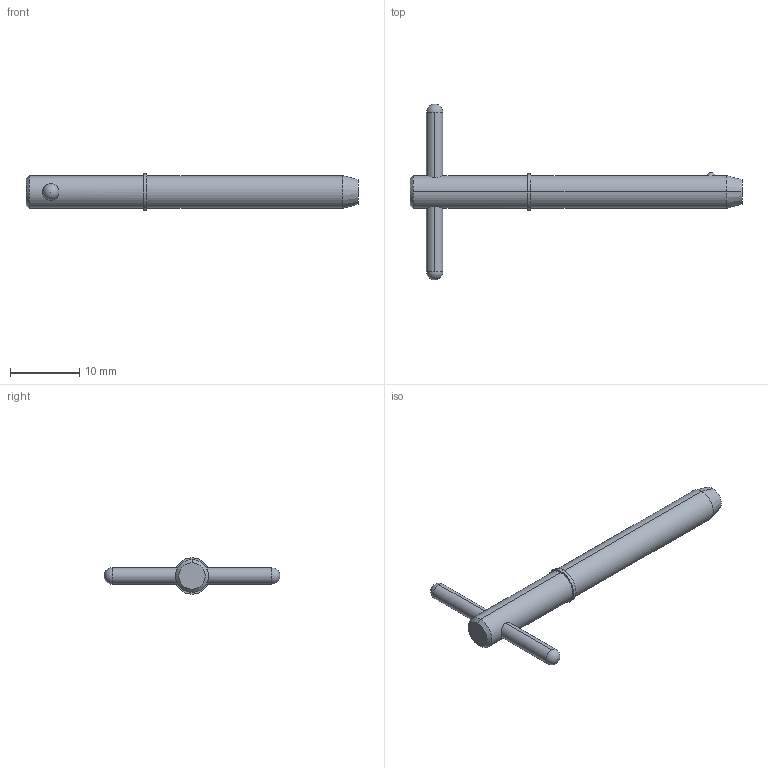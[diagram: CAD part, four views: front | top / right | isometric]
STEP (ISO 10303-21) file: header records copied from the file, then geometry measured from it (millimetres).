
FILE_DESCRIPTION (( 'STEP AP203' ), '1' );
FILE_NAME ('33018.W1810.step', '2024-11-19T17:06:47', ( '' ), ( '' ), 'SwSTEP 2.0', 'SolidWorks 2019', '' );
FILE_SCHEMA (( 'CONFIG_CONTROL_DESIGN' ));
Length unit declared in the file: millimetre
Products named in the file (3): 33018.W1810; Part2_33018.W1810; Part1_33018.W1810
Assembly tree (2 placements, depth 2):
  33018.W1810
    Part1_33018.W1810
    Part2_33018.W1810
Bounding box: 47.93 x 25.4 x 5.24 mm (x, y, z)
Volume: 933.4 mm3; surface area: 959.8 mm2
Topology: 2 solids, 2 shells, 22 faces, 47 edges, 30 vertices
Faces by surface type: cylinder 10, sphere 4, cone 4, plane 4
Entity records: 961 total; most frequent: CARTESIAN_POINT 204, DIRECTION 110, ORIENTED_EDGE 82, AXIS2_PLACEMENT_3D 48, EDGE_CURVE 41, EDGE_LOOP 27, PERSON_AND_ORGANIZATION 26, VERTEX_POINT 26
